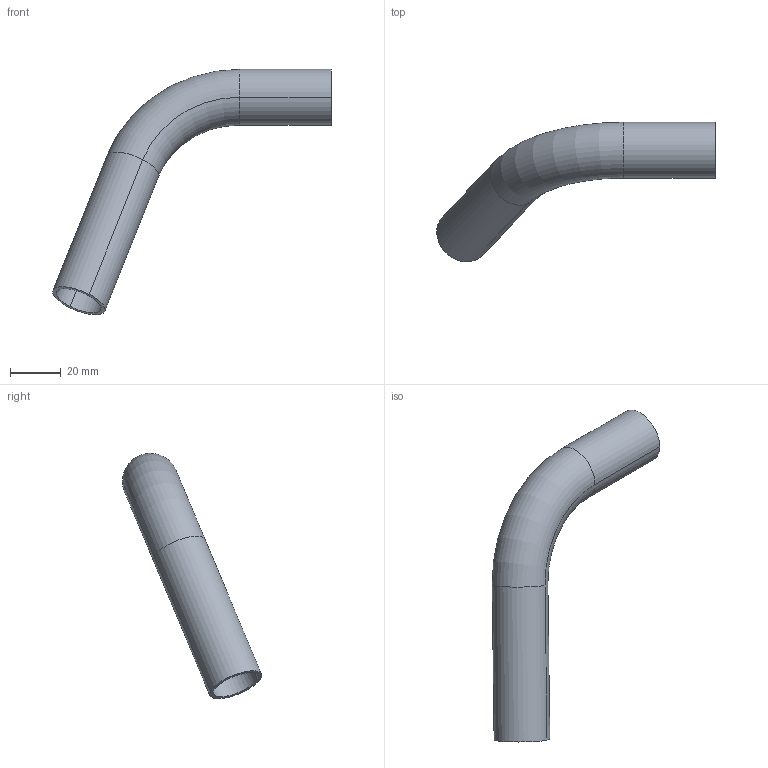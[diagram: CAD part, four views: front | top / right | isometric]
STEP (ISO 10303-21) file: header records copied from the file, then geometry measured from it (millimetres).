
FILE_DESCRIPTION(('CATIA V5 STEP Exchange','CAx-IF Rec.Pracs.--- Model Styling and Organization---1.2---2011-12-15'),'2;1');
FILE_NAME('c:\aplikace\smarteam\Temp\DO584735.step','2016-07-11T09:12:18+00:00',('none'),('none'),'CATIA Version 5 Release 21 SP 6 (IN-10)','CATIA V5 STEP AP214','none');
FILE_SCHEMA(('AUTOMOTIVE_DESIGN { 1 0 10303 214 1 1 1 1 }'));
Length unit declared in the file: millimetre
Products named in the file (1): DO584735, TRUBKA T1
Bounding box: 109.85 x 54.87 x 96.77 mm (x, y, z)
Volume: 14711.1 mm3; surface area: 19808 mm2
Topology: 1 solids, 1 shells, 14 faces, 28 edges, 16 vertices
Faces by surface type: cylinder 8, torus 4, plane 2
Entity records: 343 total; most frequent: ORIENTED_EDGE 56, CARTESIAN_POINT 53, DIRECTION 44, AXIS2_PLACEMENT_3D 29, EDGE_CURVE 28, CIRCLE 20, EDGE_LOOP 16, VERTEX_POINT 16
